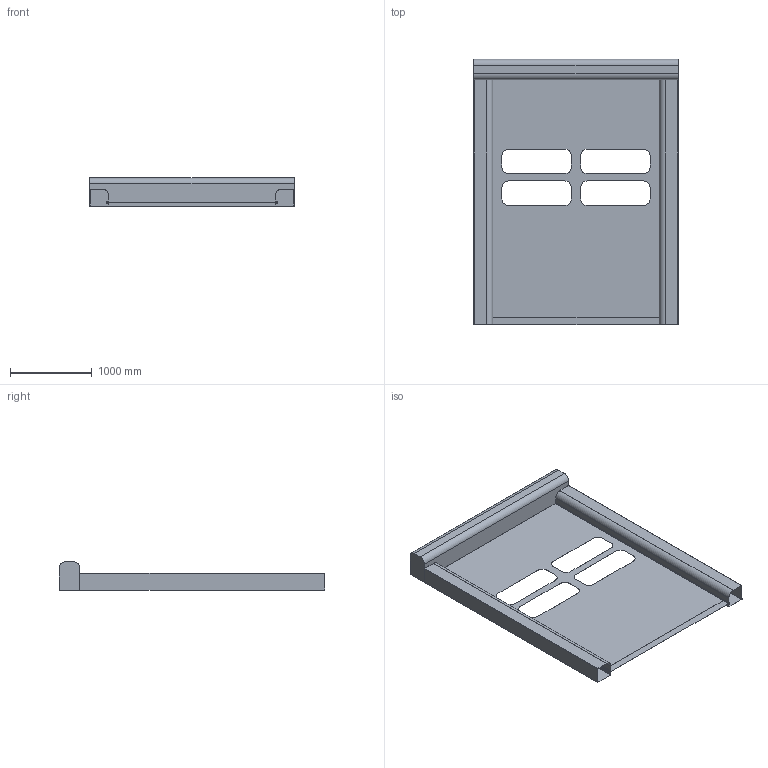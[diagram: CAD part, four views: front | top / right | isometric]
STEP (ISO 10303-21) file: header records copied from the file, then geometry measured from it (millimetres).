
FILE_DESCRIPTION (( 'STEP AP203' ), '1' );
FILE_NAME ('Dyn_CB.STEP', '2018-07-18T08:59:08', ( '' ), ( '' ), 'SwSTEP 2.0', 'SolidWorks 2018', '' );
FILE_SCHEMA (( 'CONFIG_CONTROL_DESIGN' ));
Length unit declared in the file: millimetre
Products named in the file (1): Dyn_CB
Bounding box: 2500 x 3250 x 350 mm (x, y, z)
Volume: 226277592.3 mm3; surface area: 24573103.3 mm2
Topology: 5 solids, 5 shells, 152 faces, 426 edges, 284 vertices
Faces by surface type: plane 102, cylinder 50
Entity records: 4983 total; most frequent: CARTESIAN_POINT 863, ORIENTED_EDGE 852, DIRECTION 832, EDGE_CURVE 426, VECTOR 326, LINE 326, VERTEX_POINT 284, AXIS2_PLACEMENT_3D 253
